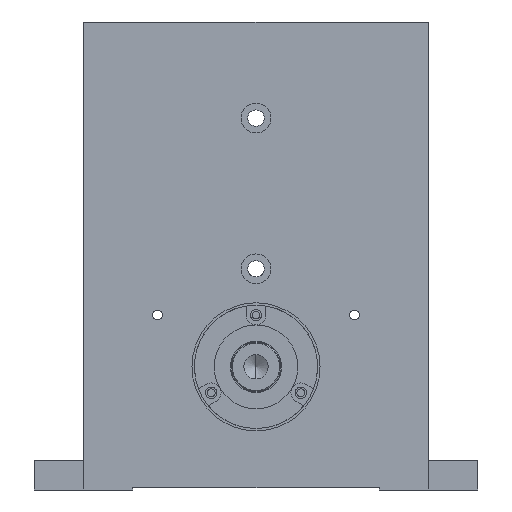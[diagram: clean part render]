
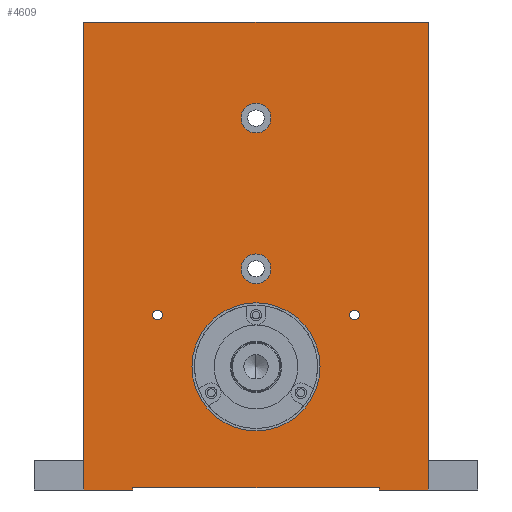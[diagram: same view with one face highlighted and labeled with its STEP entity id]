
A CAD part, left-side view. The second image highlights one B-rep face of the part: STEP entity #4609.
In plain terms, the highlighted planar face has unit normal (-1, 0, 0).
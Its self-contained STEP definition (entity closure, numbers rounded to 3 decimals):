
#143=CARTESIAN_POINT('',(-45.0,20.,33.49));
#144=VERTEX_POINT('',#143);
#160=CARTESIAN_POINT('',(-45.0,20.,31.51));
#161=VERTEX_POINT('',#160);
#168=CARTESIAN_POINT('',(-45.0,20.,32.5));
#169=DIRECTION('',(1.0,0.0,0.0));
#170=DIRECTION('',(0.0,0.0,1.0));
#171=AXIS2_PLACEMENT_3D('',#168,#169,#170);
#172=CIRCLE('',#171,0.99);
#173=EDGE_CURVE('',#144,#161,#172,.T.);
#185=CARTESIAN_POINT('',(-45.0,-20.,33.49));
#186=VERTEX_POINT('',#185);
#202=CARTESIAN_POINT('',(-45.0,-20.,31.51));
#203=VERTEX_POINT('',#202);
#210=CARTESIAN_POINT('',(-45.0,-20.,32.5));
#211=DIRECTION('',(1.0,0.0,0.0));
#212=DIRECTION('',(0.0,0.0,1.0));
#213=AXIS2_PLACEMENT_3D('',#210,#211,#212);
#214=CIRCLE('',#213,0.99);
#215=EDGE_CURVE('',#186,#203,#214,.T.);
#269=CARTESIAN_POINT('',(-45.0,0.0,75.525));
#270=VERTEX_POINT('',#269);
#286=CARTESIAN_POINT('',(-45.0,0.,69.475));
#287=VERTEX_POINT('',#286);
#294=CARTESIAN_POINT('',(-45.0,0.0,72.5));
#295=DIRECTION('',(1.0,0.0,0.0));
#296=DIRECTION('',(0.0,0.0,1.0));
#297=AXIS2_PLACEMENT_3D('',#294,#295,#296);
#298=CIRCLE('',#297,3.025);
#299=EDGE_CURVE('',#270,#287,#298,.T.);
#353=CARTESIAN_POINT('',(-45.0,0.0,35.0));
#354=VERTEX_POINT('',#353);
#370=CARTESIAN_POINT('',(-45.0,0.,9.0));
#371=VERTEX_POINT('',#370);
#378=CARTESIAN_POINT('',(-45.0,0.0,22.0));
#379=DIRECTION('',(1.0,0.0,0.0));
#380=DIRECTION('',(0.0,0.0,1.0));
#381=AXIS2_PLACEMENT_3D('',#378,#379,#380);
#382=CIRCLE('',#381,13.0);
#383=EDGE_CURVE('',#354,#371,#382,.T.);
#899=CARTESIAN_POINT('',(-45.0,0.0,44.925));
#900=VERTEX_POINT('',#899);
#916=CARTESIAN_POINT('',(-45.0,0.,38.875));
#917=VERTEX_POINT('',#916);
#924=CARTESIAN_POINT('',(-45.0,0.0,41.9));
#925=DIRECTION('',(1.0,0.0,0.0));
#926=DIRECTION('',(0.0,0.0,1.0));
#927=AXIS2_PLACEMENT_3D('',#924,#925,#926);
#928=CIRCLE('',#927,3.025);
#929=EDGE_CURVE('',#900,#917,#928,.T.);
#3542=CARTESIAN_POINT('',(-45.0,0.0,41.9));
#3543=DIRECTION('',(1.0,0.0,0.0));
#3544=DIRECTION('',(0.0,0.0,1.0));
#3545=AXIS2_PLACEMENT_3D('',#3542,#3543,#3544);
#3546=CIRCLE('',#3545,3.025);
#3547=EDGE_CURVE('',#917,#900,#3546,.T.);
#3886=CARTESIAN_POINT('',(-45.0,0.0,22.0));
#3887=DIRECTION('',(1.0,0.0,0.0));
#3888=DIRECTION('',(0.0,0.0,1.0));
#3889=AXIS2_PLACEMENT_3D('',#3886,#3887,#3888);
#3890=CIRCLE('',#3889,13.0);
#3891=EDGE_CURVE('',#371,#354,#3890,.T.);
#3948=CARTESIAN_POINT('',(-45.0,0.0,72.5));
#3949=DIRECTION('',(1.0,0.0,0.0));
#3950=DIRECTION('',(0.0,0.0,1.0));
#3951=AXIS2_PLACEMENT_3D('',#3948,#3949,#3950);
#3952=CIRCLE('',#3951,3.025);
#3953=EDGE_CURVE('',#287,#270,#3952,.T.);
#3984=CARTESIAN_POINT('',(-45.0,-20.,32.5));
#3985=DIRECTION('',(1.0,0.0,0.0));
#3986=DIRECTION('',(0.0,0.0,1.0));
#3987=AXIS2_PLACEMENT_3D('',#3984,#3985,#3986);
#3988=CIRCLE('',#3987,0.99);
#3989=EDGE_CURVE('',#203,#186,#3988,.T.);
#4008=CARTESIAN_POINT('',(-45.0,20.,32.5));
#4009=DIRECTION('',(1.0,0.0,0.0));
#4010=DIRECTION('',(0.0,0.0,1.0));
#4011=AXIS2_PLACEMENT_3D('',#4008,#4009,#4010);
#4012=CIRCLE('',#4011,0.99);
#4013=EDGE_CURVE('',#161,#144,#4012,.T.);
#4160=CARTESIAN_POINT('',(-45.,35.,-3.));
#4161=VERTEX_POINT('',#4160);
#4168=CARTESIAN_POINT('',(-45.,35.,92.0));
#4169=VERTEX_POINT('',#4168);
#4170=CARTESIAN_POINT('',(-45.,35.,92.0));
#4171=DIRECTION('',(0.0,0.0,-1.0));
#4172=VECTOR('',#4171,95.0);
#4173=LINE('',#4170,#4172);
#4174=EDGE_CURVE('',#4169,#4161,#4173,.T.);
#4201=CARTESIAN_POINT('',(-45.,-35.,92.0));
#4202=VERTEX_POINT('',#4201);
#4209=CARTESIAN_POINT('',(-45.,-35.,-3.));
#4210=VERTEX_POINT('',#4209);
#4211=CARTESIAN_POINT('',(-45.,-35.,-3.));
#4212=DIRECTION('',(0.0,0.0,1.0));
#4213=VECTOR('',#4212,95.0);
#4214=LINE('',#4211,#4213);
#4215=EDGE_CURVE('',#4210,#4202,#4214,.T.);
#4318=CARTESIAN_POINT('',(-45.0,25.,-2.5));
#4319=VERTEX_POINT('',#4318);
#4326=CARTESIAN_POINT('',(-45.0,25.,-3.0));
#4327=VERTEX_POINT('',#4326);
#4328=CARTESIAN_POINT('',(-45.0,25.,-3.0));
#4329=DIRECTION('',(0.0,0.0,1.0));
#4330=VECTOR('',#4329,0.5);
#4331=LINE('',#4328,#4330);
#4332=EDGE_CURVE('',#4327,#4319,#4331,.T.);
#4358=CARTESIAN_POINT('',(-45.0,-25.,-3.0));
#4359=VERTEX_POINT('',#4358);
#4366=CARTESIAN_POINT('',(-45.0,-25.,-2.5));
#4367=VERTEX_POINT('',#4366);
#4368=CARTESIAN_POINT('',(-45.0,-25.,-2.5));
#4369=DIRECTION('',(0.0,0.0,-1.0));
#4370=VECTOR('',#4369,0.5);
#4371=LINE('',#4368,#4370);
#4372=EDGE_CURVE('',#4367,#4359,#4371,.T.);
#4395=CARTESIAN_POINT('',(-45.0,25.,-2.5));
#4396=DIRECTION('',(0.0,-1.0,0.0));
#4397=VECTOR('',#4396,50.0);
#4398=LINE('',#4395,#4397);
#4399=EDGE_CURVE('',#4319,#4367,#4398,.T.);
#4466=CARTESIAN_POINT('',(-45.,-35.,-3.));
#4467=DIRECTION('',(0.0,1.0,0.0));
#4468=VECTOR('',#4467,10.);
#4469=LINE('',#4466,#4468);
#4470=EDGE_CURVE('',#4210,#4359,#4469,.T.);
#4493=CARTESIAN_POINT('',(-45.0,25.,-3.0));
#4494=DIRECTION('',(0.0,1.0,0.0));
#4495=VECTOR('',#4494,10.);
#4496=LINE('',#4493,#4495);
#4497=EDGE_CURVE('',#4327,#4161,#4496,.T.);
#4569=CARTESIAN_POINT('',(-45.0,-45.,-3.0));
#4570=DIRECTION('',(-1.0,0.0,0.0));
#4571=DIRECTION('',(0.0,0.0,1.0));
#4572=AXIS2_PLACEMENT_3D('',#4569,#4570,#4571);
#4573=PLANE('',#4572);
#4574=ORIENTED_EDGE('',*,*,#4332,.T.);
#4575=ORIENTED_EDGE('',*,*,#4399,.T.);
#4576=ORIENTED_EDGE('',*,*,#4372,.T.);
#4577=ORIENTED_EDGE('',*,*,#4470,.F.);
#4578=ORIENTED_EDGE('',*,*,#4215,.T.);
#4579=CARTESIAN_POINT('',(-45.,-35.,92.0));
#4580=DIRECTION('',(0.0,1.0,0.0));
#4581=VECTOR('',#4580,70.0);
#4582=LINE('',#4579,#4581);
#4583=EDGE_CURVE('',#4202,#4169,#4582,.T.);
#4584=ORIENTED_EDGE('',*,*,#4583,.T.);
#4585=ORIENTED_EDGE('',*,*,#4174,.T.);
#4586=ORIENTED_EDGE('',*,*,#4497,.F.);
#4587=EDGE_LOOP('',(#4574,#4575,#4576,#4577,#4578,#4584,#4585,#4586));
#4588=FACE_OUTER_BOUND('',#4587,.T.);
#4589=ORIENTED_EDGE('',*,*,#929,.T.);
#4590=ORIENTED_EDGE('',*,*,#3547,.T.);
#4591=EDGE_LOOP('',(#4589,#4590));
#4592=FACE_BOUND('',#4591,.T.);
#4593=ORIENTED_EDGE('',*,*,#383,.T.);
#4594=ORIENTED_EDGE('',*,*,#3891,.T.);
#4595=EDGE_LOOP('',(#4593,#4594));
#4596=FACE_BOUND('',#4595,.T.);
#4597=ORIENTED_EDGE('',*,*,#299,.T.);
#4598=ORIENTED_EDGE('',*,*,#3953,.T.);
#4599=EDGE_LOOP('',(#4597,#4598));
#4600=FACE_BOUND('',#4599,.T.);
#4601=ORIENTED_EDGE('',*,*,#215,.T.);
#4602=ORIENTED_EDGE('',*,*,#3989,.T.);
#4603=EDGE_LOOP('',(#4601,#4602));
#4604=FACE_BOUND('',#4603,.T.);
#4605=ORIENTED_EDGE('',*,*,#173,.T.);
#4606=ORIENTED_EDGE('',*,*,#4013,.T.);
#4607=EDGE_LOOP('',(#4605,#4606));
#4608=FACE_BOUND('',#4607,.T.);
#4609=ADVANCED_FACE('',(#4588,#4592,#4596,#4600,#4604,#4608),#4573,.T.);
